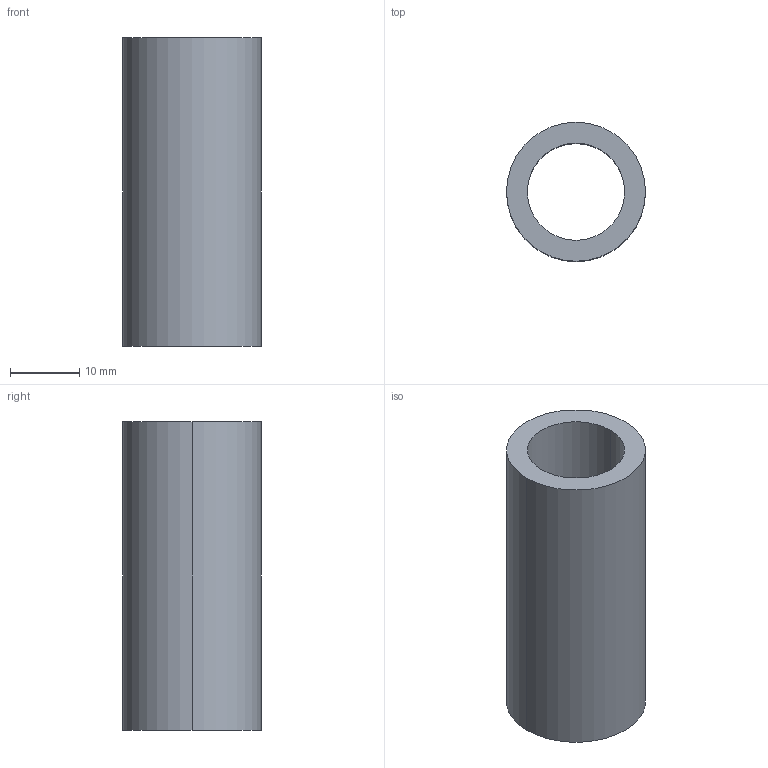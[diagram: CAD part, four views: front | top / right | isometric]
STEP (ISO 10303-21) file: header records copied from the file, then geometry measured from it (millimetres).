
FILE_DESCRIPTION (( 'STEP AP214' ), '1' );
FILE_NAME ('YYDK-500-0010 油管保护罩1（500T）-2.step', '2024-11-20T05:46:44', ( '' ), ( '' ), 'SwSTEP 2.0', 'SolidWorks 2020', '' );
FILE_SCHEMA (( 'AUTOMOTIVE_DESIGN' ));
Length unit declared in the file: inch
Products named in the file (1): YYDK-500-0010 油管保护罩1（500T）-2
Bounding box: 20 x 20 x 44.45 mm (x, y, z)
Volume: 7121.8 mm3; surface area: 5068.3 mm2
Topology: 1 solids, 1 shells, 6 faces, 12 edges, 8 vertices
Faces by surface type: cylinder 4, plane 2
Entity records: 208 total; most frequent: DIRECTION 34, CARTESIAN_POINT 27, ORIENTED_EDGE 24, AXIS2_PLACEMENT_3D 15, EDGE_CURVE 12, EDGE_LOOP 8, VERTEX_POINT 8, CIRCLE 8
